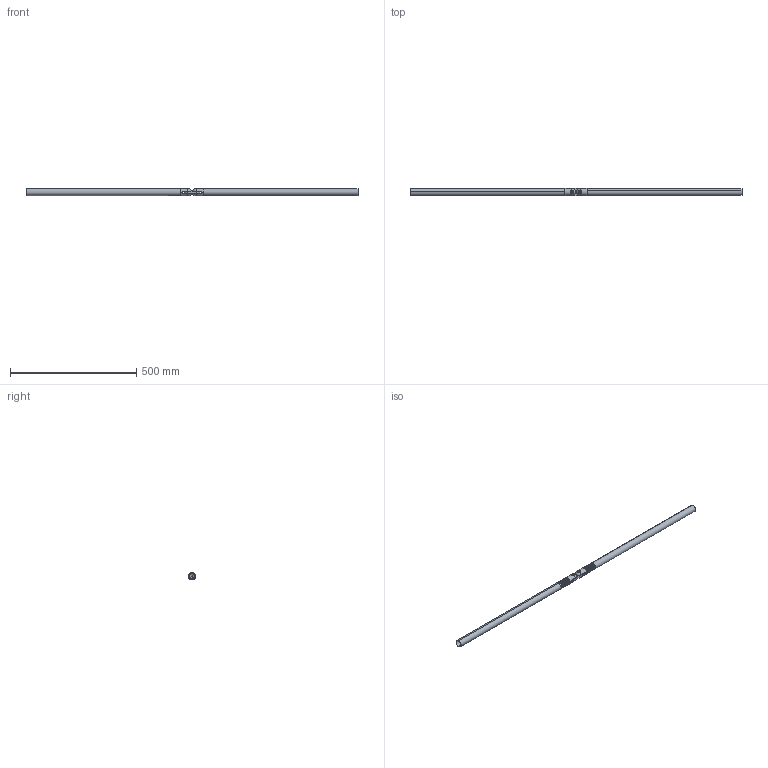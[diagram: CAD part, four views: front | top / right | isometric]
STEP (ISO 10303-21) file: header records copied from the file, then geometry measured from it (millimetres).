
FILE_DESCRIPTION (( 'STEP AP214' ), '1' );
FILE_NAME ('Female to Link to Female.STEP', '2013-08-19T15:59:17', ( 'ydmin' ), ( 'Microsoft' ), 'SwSTEP 2.0', 'SolidWorks 2013', '' );
FILE_SCHEMA (( 'AUTOMOTIVE_DESIGN' ));
Length unit declared in the file: inch
Products named in the file (6): Female to Link to Female; DRP-002-0525-00; DRP-002-0510-00_FEMALE YOKE TUBE INSERT; 91990A255 (1)_91990A255; 91255A542_91255A542; 6.000 Inch Tube
Assembly tree (9 placements, depth 2):
  Female to Link to Female
    DRP-002-0525-00
    DRP-002-0510-00_FEMALE YOKE TUBE INSERT  x2
    91990A255 (1)_91990A255  x2
    91255A542_91255A542  x2
    6.000 Inch Tube  x2
Bounding box: 1312.72 x 28.57 x 30.47 mm (x, y, z)
Volume: 166010.2 mm3; surface area: 238469.3 mm2
Topology: 9 solids, 9 shells, 889 faces, 2251 edges, 1380 vertices
Faces by surface type: cylinder 397, plane 258, cone 194, torus 16, bspline 16, sphere 8
Entity records: 17766 total; most frequent: CARTESIAN_POINT 6669, DIRECTION 2304, ORIENTED_EDGE 2274, EDGE_CURVE 1137, AXIS2_PLACEMENT_3D 842, VERTEX_POINT 699, VECTOR 620, LINE 620
